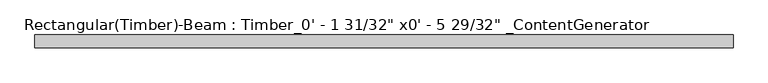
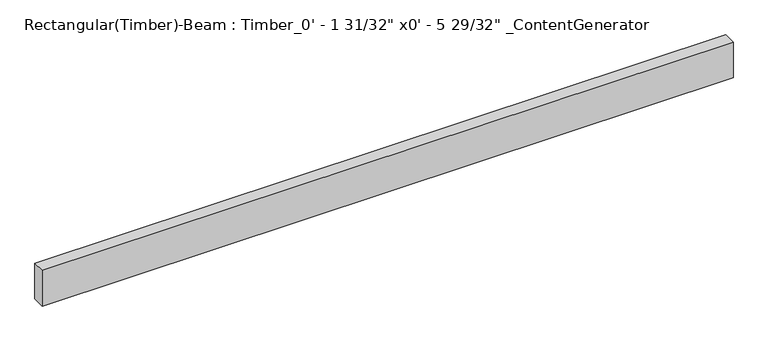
"""IFC4 building model written with IfcOpenShell, lengths in millimetres: beam geometry."""

from ifc_helpers import new_model, si_unit, frame, origin, place, context, project, spatial, polyline, outline, extrude, source, transform, mapped, element, save


def beam_8791feaf(model_context):
    return source(origin(), model_context, "Body", "SweptSolid", [
        extrude(outline(polyline([(1397.0025, 25.4), (1397.0025, -25.4), (-1396.9925, -25.4), (-1396.9925, 25.4), (1397.0025, 25.4)])), frame((0.0, 0.0, -76.2), z_axis=(0.0, 0.0, 1.0), x_axis=(1.0, 0.0, 0.0)), (0.0, 0.0, 1.0), 152.4),
    ])


if __name__ == "__main__":
    model = new_model("IFC4")
    model_context = context("Model", 3, world=origin())
    ifc_project = project(units=[si_unit("LENGTHUNIT", "METRE", prefix="MILLI")], contexts=[model_context])
    site = spatial("IfcSite", under=ifc_project)
    building = spatial("IfcBuilding", under=site)
    placement = place(None, origin())
    beam_shape = beam_8791feaf(model_context)
    element("IfcBeam", 1, ObjectType="Rectangular(Timber)-Beam : Timber_0' - 1 31/32\" x0' - 5 29/32\" _ContentGenerator", at=placement, inside=building, context=model_context, shape_type="MappedRepresentation", body=[
        mapped(beam_shape, transform((0.0, 0.0, 0.0), x_axis=(1.0, 0.0, 0.0), y_axis=(0.0, 1.0, 0.0), z_axis=(0.0, 0.0, 1.0))),
    ])
    save(model, "model.ifc")
